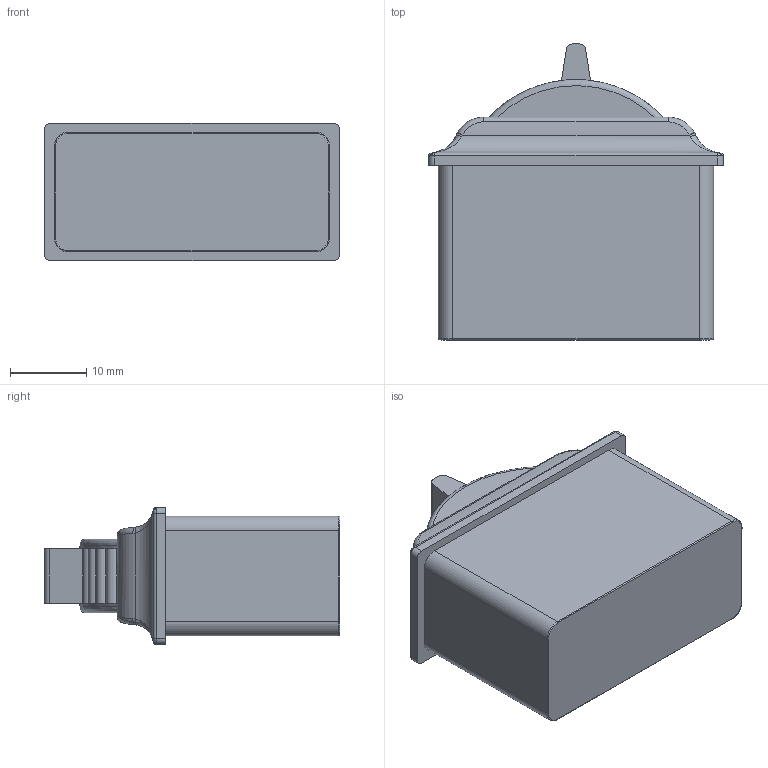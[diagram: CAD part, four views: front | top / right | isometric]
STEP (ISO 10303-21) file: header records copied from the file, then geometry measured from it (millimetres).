
FILE_DESCRIPTION (( 'STEP AP214' ), '1' );
FILE_NAME ('TYR13_1016y.STEP', '2013-03-04T12:08:21', ( '' ), ( '' ), 'SwSTEP 2.0', 'SolidWorks 2012', '' );
FILE_SCHEMA (( 'AUTOMOTIVE_DESIGN' ));
Length unit declared in the file: inch
Products named in the file (1): TYR13_1016y
Bounding box: 38.76 x 38.89 x 18.03 mm (x, y, z)
Volume: 16881.6 mm3; surface area: 4902.5 mm2
Topology: 3 solids, 3 shells, 178 faces, 446 edges, 276 vertices
Faces by surface type: cylinder 76, plane 72, bspline 30
Entity records: 8500 total; most frequent: CARTESIAN_POINT 2890, ORIENTED_EDGE 892, DIRECTION 866, EDGE_CURVE 446, AXIS2_PLACEMENT_3D 339, VERTEX_POINT 276, CIRCLE 190, LINE 188
